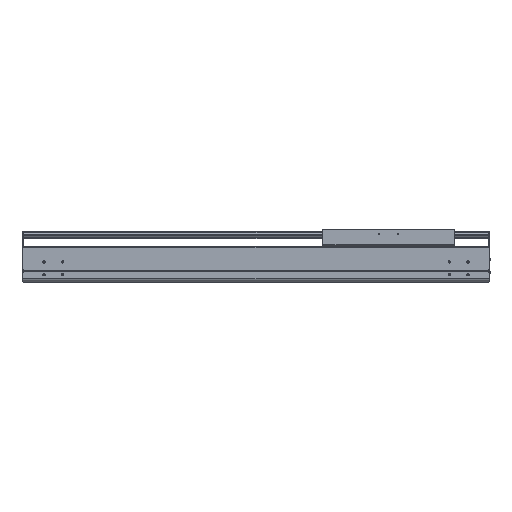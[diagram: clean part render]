
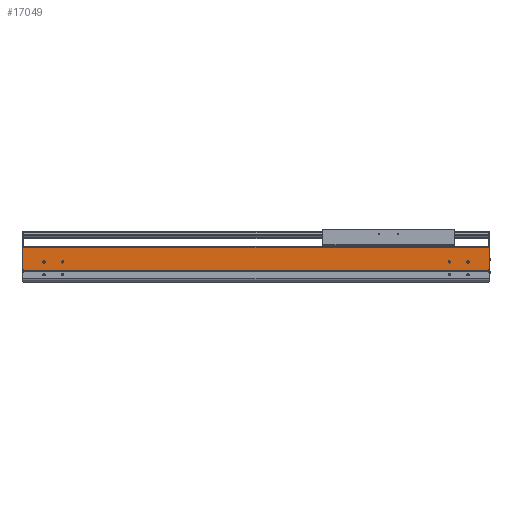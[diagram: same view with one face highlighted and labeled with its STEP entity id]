
A CAD part, top view. The second image highlights one B-rep face of the part: STEP entity #17049.
In plain terms, the highlighted planar face has unit normal (0, 0, 1).
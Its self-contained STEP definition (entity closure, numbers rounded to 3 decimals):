
#517=DIRECTION('',(0.,-1.,0.));
#518=VECTOR('',#517,2.55);
#519=CARTESIAN_POINT('',(0.,34.65,107.));
#520=LINE('',#519,#518);
#2142=DIRECTION('',(1.,0.,0.));
#2143=VECTOR('',#2142,2.);
#2144=CARTESIAN_POINT('',(0.,34.65,107.));
#2145=LINE('',#2144,#2143);
#2150=CARTESIAN_POINT('',(-54.5,54.,107.));
#2151=DIRECTION('',(0.,0.,-1.));
#2152=DIRECTION('',(1.,0.,0.));
#2153=AXIS2_PLACEMENT_3D('',#2150,#2151,#2152);
#2155=CARTESIAN_POINT('',(-54.5,54.,107.));
#2156=DIRECTION('',(0.,0.,-1.));
#2157=DIRECTION('',(-1.,0.,0.));
#2158=AXIS2_PLACEMENT_3D('',#2155,#2156,#2157);
#2160=CARTESIAN_POINT('',(-104.5,54.,107.));
#2161=DIRECTION('',(0.,0.,-1.));
#2162=DIRECTION('',(1.,0.,0.));
#2163=AXIS2_PLACEMENT_3D('',#2160,#2161,#2162);
#2165=CARTESIAN_POINT('',(-104.5,54.,107.));
#2166=DIRECTION('',(0.,0.,-1.));
#2167=DIRECTION('',(-1.,0.,0.));
#2168=AXIS2_PLACEMENT_3D('',#2165,#2166,#2167);
#2170=CARTESIAN_POINT('',(-1184.5,54.,107.));
#2171=DIRECTION('',(0.,0.,-1.));
#2172=DIRECTION('',(1.,0.,0.));
#2173=AXIS2_PLACEMENT_3D('',#2170,#2171,#2172);
#2175=CARTESIAN_POINT('',(-1184.5,54.,107.));
#2176=DIRECTION('',(0.,0.,-1.));
#2177=DIRECTION('',(-1.,0.,0.));
#2178=AXIS2_PLACEMENT_3D('',#2175,#2176,#2177);
#2180=CARTESIAN_POINT('',(-1134.5,54.,107.));
#2181=DIRECTION('',(0.,0.,-1.));
#2182=DIRECTION('',(1.,0.,0.));
#2183=AXIS2_PLACEMENT_3D('',#2180,#2181,#2182);
#2185=CARTESIAN_POINT('',(-1134.5,54.,107.));
#2186=DIRECTION('',(0.,0.,-1.));
#2187=DIRECTION('',(-1.,0.,0.));
#2188=AXIS2_PLACEMENT_3D('',#2185,#2186,#2187);
#2190=DIRECTION('',(0.,-1.,0.));
#2191=VECTOR('',#2190,2.55);
#2192=CARTESIAN_POINT('',(-1239.,34.65,107.));
#2193=LINE('',#2192,#2191);
#2194=DIRECTION('',(0.,-1.,0.));
#2195=VECTOR('',#2194,58.85);
#2196=CARTESIAN_POINT('',(-1241.,93.5,107.));
#2197=LINE('',#2196,#2195);
#2198=DIRECTION('',(0.,1.,0.));
#2199=VECTOR('',#2198,58.85);
#2200=CARTESIAN_POINT('',(2.,34.65,107.));
#2201=LINE('',#2200,#2199);
#2202=DIRECTION('',(1.,0.,0.));
#2203=VECTOR('',#2202,1239.);
#2204=CARTESIAN_POINT('',(-1239.,32.1,107.));
#2205=LINE('',#2204,#2203);
#2314=DIRECTION('',(1.,0.,0.));
#2315=VECTOR('',#2314,2.);
#2316=CARTESIAN_POINT('',(-1241.,34.65,107.));
#2317=LINE('',#2316,#2315);
#2326=DIRECTION('',(-1.,0.,0.));
#2327=VECTOR('',#2326,1243.);
#2328=CARTESIAN_POINT('',(2.,93.5,107.));
#2329=LINE('',#2328,#2327);
#11389=CARTESIAN_POINT('',(-1241.,34.65,107.));
#11390=VERTEX_POINT('',#11389);
#11391=CARTESIAN_POINT('',(-1241.,93.5,107.));
#11392=VERTEX_POINT('',#11391);
#11621=CARTESIAN_POINT('',(-1239.,32.1,107.));
#11622=VERTEX_POINT('',#11621);
#12091=CARTESIAN_POINT('',(0.,32.1,107.));
#12092=VERTEX_POINT('',#12091);
#12093=CARTESIAN_POINT('',(-52.,54.,107.));
#12094=CARTESIAN_POINT('',(-57.,54.,107.));
#12095=VERTEX_POINT('',#12093);
#12096=VERTEX_POINT('',#12094);
#12097=CARTESIAN_POINT('',(-102.,54.,107.));
#12098=CARTESIAN_POINT('',(-107.,54.,107.));
#12099=VERTEX_POINT('',#12097);
#12100=VERTEX_POINT('',#12098);
#12101=CARTESIAN_POINT('',(-1182.,54.,107.));
#12102=CARTESIAN_POINT('',(-1187.,54.,107.));
#12103=VERTEX_POINT('',#12101);
#12104=VERTEX_POINT('',#12102);
#12105=CARTESIAN_POINT('',(-1132.,54.,107.));
#12106=CARTESIAN_POINT('',(-1137.,54.,107.));
#12107=VERTEX_POINT('',#12105);
#12108=VERTEX_POINT('',#12106);
#13178=CARTESIAN_POINT('',(2.,34.65,107.));
#13179=VERTEX_POINT('',#13178);
#13180=CARTESIAN_POINT('',(2.,93.5,107.));
#13181=VERTEX_POINT('',#13180);
#13524=CARTESIAN_POINT('',(0.,34.65,107.));
#13525=VERTEX_POINT('',#13524);
#13712=CARTESIAN_POINT('',(-1239.,34.65,107.));
#13713=VERTEX_POINT('',#13712);
#17007=CARTESIAN_POINT('',(-619.5,62.8,107.));
#17008=DIRECTION('',(0.,0.,1.));
#17009=DIRECTION('',(0.,-1.,0.));
#17010=AXIS2_PLACEMENT_3D('',#17007,#17008,#17009);
#17011=PLANE('',#17010);
#17012=ORIENTED_EDGE('',*,*,#14496,.F.);
#17014=ORIENTED_EDGE('',*,*,#17013,.F.);
#17015=ORIENTED_EDGE('',*,*,#15595,.F.);
#17017=ORIENTED_EDGE('',*,*,#17016,.F.);
#17018=ORIENTED_EDGE('',*,*,#16805,.F.);
#17019=ORIENTED_EDGE('',*,*,#17000,.F.);
#17020=ORIENTED_EDGE('',*,*,#15111,.T.);
#17022=ORIENTED_EDGE('',*,*,#17021,.F.);
#17023=EDGE_LOOP('',(#17012,#17014,#17015,#17017,#17018,#17019,#17020,#17022));
#17024=FACE_OUTER_BOUND('',#17023,.F.);
#17026=ORIENTED_EDGE('',*,*,#17025,.F.);
#17028=ORIENTED_EDGE('',*,*,#17027,.F.);
#17029=EDGE_LOOP('',(#17026,#17028));
#17030=FACE_BOUND('',#17029,.F.);
#17032=ORIENTED_EDGE('',*,*,#17031,.F.);
#17034=ORIENTED_EDGE('',*,*,#17033,.F.);
#17035=EDGE_LOOP('',(#17032,#17034));
#17036=FACE_BOUND('',#17035,.F.);
#17038=ORIENTED_EDGE('',*,*,#17037,.F.);
#17040=ORIENTED_EDGE('',*,*,#17039,.F.);
#17041=EDGE_LOOP('',(#17038,#17040));
#17042=FACE_BOUND('',#17041,.F.);
#17044=ORIENTED_EDGE('',*,*,#17043,.F.);
#17046=ORIENTED_EDGE('',*,*,#17045,.F.);
#17047=EDGE_LOOP('',(#17044,#17046));
#17048=FACE_BOUND('',#17047,.F.);
#17049=ADVANCED_FACE('',(#17024,#17030,#17036,#17042,#17048),#17011,.T.);
#2154=CIRCLE('',#2153,2.5);
#2159=CIRCLE('',#2158,2.5);
#2164=CIRCLE('',#2163,2.5);
#2169=CIRCLE('',#2168,2.5);
#2174=CIRCLE('',#2173,2.5);
#2179=CIRCLE('',#2178,2.5);
#2184=CIRCLE('',#2183,2.5);
#2189=CIRCLE('',#2188,2.5);
#14496=EDGE_CURVE('',#13713,#11622,#2193,.T.);
#15111=EDGE_CURVE('',#13525,#12092,#520,.T.);
#15595=EDGE_CURVE('',#11392,#11390,#2197,.T.);
#16805=EDGE_CURVE('',#13179,#13181,#2201,.T.);
#17000=EDGE_CURVE('',#13525,#13179,#2145,.T.);
#17013=EDGE_CURVE('',#11390,#13713,#2317,.T.);
#17016=EDGE_CURVE('',#13181,#11392,#2329,.T.);
#17021=EDGE_CURVE('',#11622,#12092,#2205,.T.);
#17025=EDGE_CURVE('',#12099,#12100,#2164,.T.);
#17027=EDGE_CURVE('',#12100,#12099,#2169,.T.);
#17031=EDGE_CURVE('',#12103,#12104,#2174,.T.);
#17033=EDGE_CURVE('',#12104,#12103,#2179,.T.);
#17037=EDGE_CURVE('',#12107,#12108,#2184,.T.);
#17039=EDGE_CURVE('',#12108,#12107,#2189,.T.);
#17043=EDGE_CURVE('',#12095,#12096,#2154,.T.);
#17045=EDGE_CURVE('',#12096,#12095,#2159,.T.);
